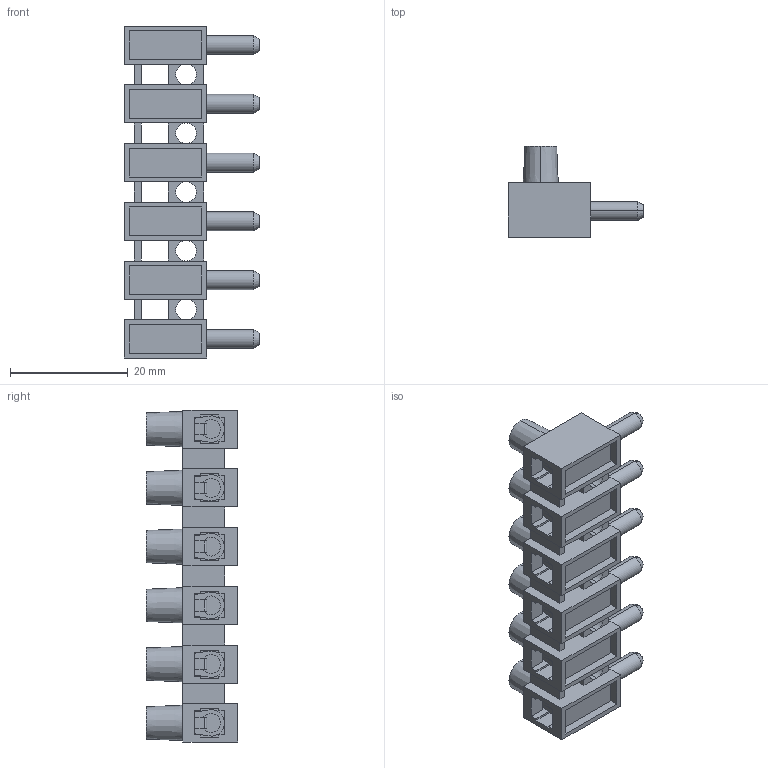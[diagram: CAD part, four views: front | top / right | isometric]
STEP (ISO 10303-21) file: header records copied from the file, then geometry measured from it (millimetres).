
FILE_DESCRIPTION (( 'STEP AP214' ), '1' );
FILE_NAME ('322-STFS-DS-06.STEP', '2008-04-15T01:55:51', ( ' ' ), ( '' ), 'SwSTEP 2.0', 'SolidWorks 2007', '' );
FILE_SCHEMA (( 'AUTOMOTIVE_DESIGN' ));
Length unit declared in the file: millimetre
Products named in the file (1): 322-STFS-DS-06
Bounding box: 23 x 15.5 x 56.5 mm (x, y, z)
Volume: 5532.6 mm3; surface area: 6854.9 mm2
Topology: 1 solids, 1 shells, 712 faces, 2032 edges, 1336 vertices
Faces by surface type: plane 456, cylinder 172, cone 54, bspline 30
Entity records: 25111 total; most frequent: CARTESIAN_POINT 6277, ORIENTED_EDGE 4064, DIRECTION 3784, EDGE_CURVE 2032, VECTOR 1394, LINE 1394, VERTEX_POINT 1336, AXIS2_PLACEMENT_3D 1195
